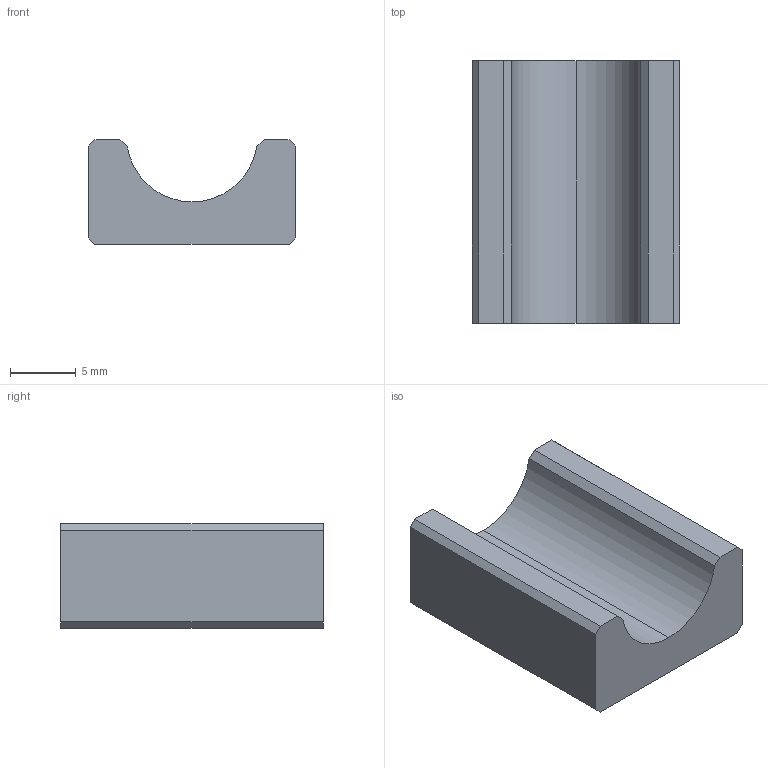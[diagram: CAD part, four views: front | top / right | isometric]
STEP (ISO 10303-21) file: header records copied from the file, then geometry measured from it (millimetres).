
FILE_DESCRIPTION (( 'STEP AP203' ), '1' );
FILE_NAME ('LightMountWedge.STEP', '2025-03-11T00:33:59', ( '' ), ( '' ), 'SwSTEP 2.0', 'SolidWorks 2024', '' );
FILE_SCHEMA (( 'CONFIG_CONTROL_DESIGN' ));
Length unit declared in the file: millimetre
Products named in the file (1): LightMountWedge
Bounding box: 15.79 x 20 x 8 mm (x, y, z)
Volume: 1775.1 mm3; surface area: 1199.1 mm2
Topology: 1 solids, 1 shells, 15 faces, 39 edges, 26 vertices
Faces by surface type: plane 13, cylinder 2
Entity records: 532 total; most frequent: CARTESIAN_POINT 81, ORIENTED_EDGE 78, DIRECTION 75, EDGE_CURVE 39, LINE 35, VECTOR 35, VERTEX_POINT 26, AXIS2_PLACEMENT_3D 20
